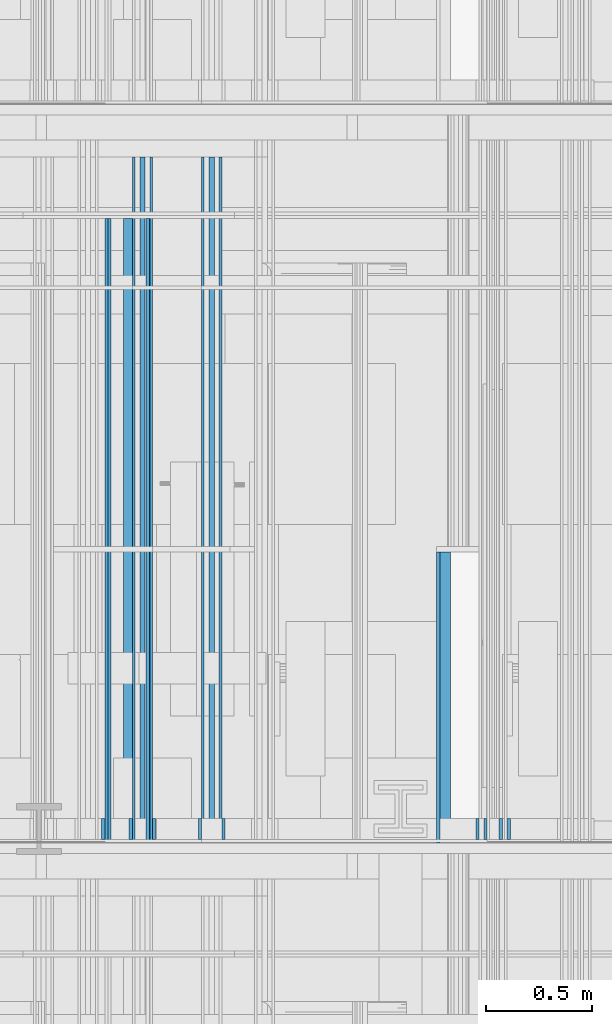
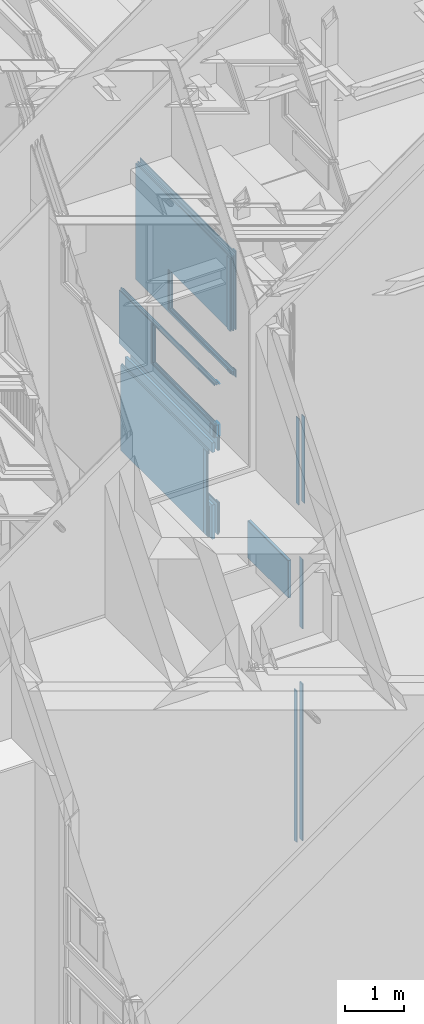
# One storey, part 109 of 583: 24 building element parts, 3 openings, 7 elements without a shape of their own.
"""IFC2X3 building model written with IfcOpenShell, lengths in metres."""

import ifcopenshell
import ifcopenshell.guid

model = None  # the IFC model being written
_history = None  # IfcOwnerHistory: only IFC2X3 demands one
_inside = {}  # id of a spatial element -> (the spatial element, [elements in it])
_under = {}  # id of a project, library or spatial element -> (it, [spatial elements below it])
_declared = {}  # id of a project -> (the project, [libraries it declares])
_typed = {}  # id of a type object -> (the type object, [elements of that type])
_made_of = {}  # id of a material, layer set ... -> (it, [elements and type objects made of it])


def new_model(schema):
    """Start an empty IFC model of exactly this schema.

    Asked for "IFC4X3", IfcOpenShell would pick the latest addendum, in which some entities
    have other attributes; the version numbers below select the first issue.
    IFC2X3 requires an IfcOwnerHistory on every rooted entity: one is made here for all.
    """
    global model, _history
    if schema == "IFC4X3":
        model = ifcopenshell.file(schema_version=(4, 3, 0, 0))
    else:
        model = ifcopenshell.file(schema=schema)
    _inside.clear()
    _under.clear()
    _declared.clear()
    _typed.clear()
    _made_of.clear()
    _history = None
    if model.schema == "IFC2X3":
        org = make("IfcOrganization", Name="unknown")
        user = make(
            "IfcPersonAndOrganization",
            ThePerson=make("IfcPerson", FamilyName="unknown"),
            TheOrganization=org,
        )
        app = make(
            "IfcApplication",
            ApplicationDeveloper=org,
            Version="unknown",
            ApplicationFullName="unknown",
            ApplicationIdentifier="unknown",
        )
        _history = make(
            "IfcOwnerHistory",
            OwningUser=user,
            OwningApplication=app,
            ChangeAction="ADDED",
            CreationDate=0,
        )
    return model


def make(cls, **values):
    """One entity of the class cls with the attributes given. An attribute that is None is left unset."""
    return model.create_entity(
        cls, **{name: value for name, value in values.items() if value is not None}
    )


def entity(cls, *values):
    """Any entity or typed value of the class cls, its attributes in the order of the schema. None: left unset."""
    e = model.create_entity(cls)
    for i, value in enumerate(values):
        if value is not None:
            e[i] = value
    return e


def rooted(cls, **values):
    """An entity with a GlobalId (a new one), such as an element, a storey or a relation."""
    return make(cls, GlobalId=ifcopenshell.guid.new(), OwnerHistory=_history, **values)


def si_unit(unit_type, name, prefix=None):
    """IfcSIUnit, for example si_unit("LENGTHUNIT", "METRE", prefix="MILLI")."""
    return make("IfcSIUnit", UnitType=unit_type, Prefix=prefix, Name=name)


def converted_unit(unit_type, name, factor, base, dimensions=None, offset=None):
    """IfcConversionBasedUnit, such as the inch: factor (a typed value) times the base unit."""
    return make(
        "IfcConversionBasedUnit"
        if offset is None
        else "IfcConversionBasedUnitWithOffset",
        ConversionOffset=offset,
        Dimensions=None
        if dimensions is None
        else entity("IfcDimensionalExponents", *dimensions),
        UnitType=unit_type,
        Name=name,
        ConversionFactor=make(
            "IfcMeasureWithUnit", ValueComponent=factor, UnitComponent=base
        ),
    )


def derived_unit(unit_type, elements):
    """IfcDerivedUnit: a product of units, each with its exponent."""
    return make(
        "IfcDerivedUnit",
        Elements=[
            make("IfcDerivedUnitElement", Unit=unit, Exponent=power)
            for unit, power in elements
        ],
        UnitType=unit_type,
    )


def money_unit(currency):
    """IfcMonetaryUnit."""
    return make("IfcMonetaryUnit", Currency=currency)


def assignment(units):
    """IfcUnitAssignment: the units of a project."""
    return None if units is None else make("IfcUnitAssignment", Units=units)


def point(xyz):
    """IfcCartesianPoint."""
    return None if xyz is None else make("IfcCartesianPoint", Coordinates=xyz)


def direction(xyz):
    """IfcDirection."""
    return None if xyz is None else make("IfcDirection", DirectionRatios=xyz)


def frame(location, z_axis=None, x_axis=None):
    """IfcAxis2Placement3D, a coordinate frame: its origin and axes. An axis left out is left unset."""
    return make(
        "IfcAxis2Placement3D",
        Location=point(location),
        Axis=direction(z_axis),
        RefDirection=direction(x_axis),
    )


def frame_2d(location, x_axis=None):
    """IfcAxis2Placement2D, a coordinate frame in the plane: its origin and x axis."""
    return make(
        "IfcAxis2Placement2D", Location=point(location), RefDirection=direction(x_axis)
    )


def origin_with_axes():
    """The frame at (0, 0, 0) with the z axis (0, 0, 1) and the x axis (1, 0, 0) written out."""
    return frame((0.0, 0.0, 0.0), z_axis=(0.0, 0.0, 1.0), x_axis=(1.0, 0.0, 0.0))


def place(relative_to, where):
    """IfcLocalPlacement: puts the frame where relative to a parent placement (None: the world)."""
    return make(
        "IfcLocalPlacement", PlacementRelTo=relative_to, RelativePlacement=where
    )


def context(
    kind, dimensions, precision=None, world=None, true_north=None, identifier=None
):
    """IfcGeometricRepresentationContext, for example the 3D "Model" context."""
    return make(
        "IfcGeometricRepresentationContext",
        ContextIdentifier=identifier,
        ContextType=kind,
        CoordinateSpaceDimension=dimensions,
        Precision=precision,
        WorldCoordinateSystem=world,
        TrueNorth=true_north,
    )


def subcontext(parent, identifier, kind, view, scale=None):
    """IfcGeometricRepresentationSubContext, for example "Body" below "Model"."""
    return make(
        "IfcGeometricRepresentationSubContext",
        ContextIdentifier=identifier,
        ContextType=kind,
        ParentContext=parent,
        TargetScale=scale,
        TargetView=view,
    )


def project(units=None, contexts=None):
    """IfcProject with its units and contexts."""
    return rooted(
        "IfcProject",
        Name="project",
        RepresentationContexts=contexts,
        UnitsInContext=assignment(units),
    )


def spatial(cls, under=None, at=None, **own):
    """A site, building, storey or space (cls), placed at a placement, below another one or the project."""
    s = rooted(cls, ObjectPlacement=at, **own)
    if under is not None:
        _under.setdefault(under.id(), (under, []))[1].append(s)
    return s


def polyline(points):
    """IfcPolyline through the points."""
    return make("IfcPolyline", Points=[point(p) for p in points])


def profile(cls, at=None, kind="AREA", **sizes):
    """A parametric profile (cls). Its sizes go by their IFC names, for example OverallWidth=200.0."""
    return make(cls, ProfileType=kind, Position=at, **sizes)


def rectangle(**sizes):
    """IfcRectangleProfileDef."""
    return profile("IfcRectangleProfileDef", **sizes)


def outline(outer, holes=None, kind="AREA"):
    """IfcArbitraryClosedProfileDef: a profile drawn as a closed curve; with holes, ...WithVoids."""
    if holes is None:
        return make("IfcArbitraryClosedProfileDef", ProfileType=kind, OuterCurve=outer)
    return make(
        "IfcArbitraryProfileDefWithVoids",
        ProfileType=kind,
        OuterCurve=outer,
        InnerCurves=holes,
    )


def extrude(swept, where, along, depth):
    """IfcExtrudedAreaSolid: the profile swept, set in the frame where, extruded along a direction by depth."""
    return make(
        "IfcExtrudedAreaSolid",
        SweptArea=swept,
        Position=where,
        ExtrudedDirection=direction(along),
        Depth=depth,
    )


def shape(context_of_items, identifier, shape_type, items):
    """IfcShapeRepresentation: the items that make up one representation, for example the "Body"."""
    return make(
        "IfcShapeRepresentation",
        ContextOfItems=context_of_items,
        RepresentationIdentifier=identifier,
        RepresentationType=shape_type,
        Items=items,
    )


def material(Name=None, Category=None):
    """IfcMaterial."""
    return make("IfcMaterial", Name=Name, Category=Category)


def made_of(thing, what):
    """Note that an element or type object is made of a material, layer set ...; save() writes the relation."""
    if what is not None:
        _made_of.setdefault(what.id(), (what, []))[1].append(thing)
    return thing


def type_object(cls, material=None, **own):
    """A type object (cls), such as IfcWallType, which elements share."""
    return made_of(rooted(cls, **own), material)


def element(
    cls,
    number,
    at=None,
    inside=None,
    cuts=None,
    type_object=None,
    material=None,
    context=None,
    identifier="Body",
    shape_type=None,
    held_by="IfcProductDefinitionShape",
    body=None,
    shapes=None,
    **own,
):
    """One element of the class cls, such as IfcWall. Its Tag is "e" and its number.

    at: its placement. inside: the storey or other place that contains it. cuts: it is an
    opening in that element (IfcRelVoidsElement). A single representation is given by context,
    identifier, shape_type and body (its items); several are given by shapes. held_by: the class
    of the entity that holds the representations. save() writes the other relations.
    """
    e = rooted(cls, Tag="e%d" % number, ObjectPlacement=at, **own)
    if body is not None:
        shapes = [shape(context, identifier, shape_type, body)]
    if shapes is not None:
        e.Representation = make(held_by, Representations=shapes)
    if inside is not None:
        _inside.setdefault(inside.id(), (inside, []))[1].append(e)
    if cuts is not None:
        rooted(
            "IfcRelVoidsElement", RelatingBuildingElement=cuts, RelatedOpeningElement=e
        )
    if type_object is not None:
        _typed.setdefault(type_object.id(), (type_object, []))[1].append(e)
    return made_of(e, material)


def aggregate(whole, parts):
    """IfcRelAggregates: a whole, such as a stair, and the parts it consists of."""
    return rooted("IfcRelAggregates", RelatingObject=whole, RelatedObjects=parts)


def save(model, path):
    """Write the relations noted so far, then the file.

    IfcRelAggregates (storeys below a building ...), IfcRelContainedInSpatialStructure (elements
    in a storey), IfcRelDefinesByType, IfcRelAssociatesMaterial and IfcRelDeclares: one each for
    every whole, place, type object, material and project.
    """
    for whole, parts in _under.values():
        aggregate(whole, parts)
    for where, things in _inside.values():
        rooted(
            "IfcRelContainedInSpatialStructure",
            RelatedElements=things,
            RelatingStructure=where,
        )
    for kind, things in _typed.values():
        rooted("IfcRelDefinesByType", RelatedObjects=things, RelatingType=kind)
    for what, things in _made_of.values():
        rooted("IfcRelAssociatesMaterial", RelatedObjects=things, RelatingMaterial=what)
    for by, libraries in _declared.values():
        rooted("IfcRelDeclares", RelatingContext=by, RelatedDefinitions=libraries)
    model.write(path)


model = new_model("IFC2X3")

# Units and contexts
model_context = context("Model", 3, precision=1e-05, world=origin_with_axes(), true_north=direction((0.0, 1.0)))
body_context = subcontext(model_context, "Body", "Model", "MODEL_VIEW", scale=1.0)
ifc_project = project(units=[si_unit("LENGTHUNIT", "METRE"), si_unit("AREAUNIT", "SQUARE_METRE"), si_unit("VOLUMEUNIT", "CUBIC_METRE"), si_unit("ABSORBEDDOSEUNIT", "GRAY"), si_unit("AMOUNTOFSUBSTANCEUNIT", "MOLE"), si_unit("DOSEEQUIVALENTUNIT", "SIEVERT"), si_unit("ELECTRICCAPACITANCEUNIT", "FARAD"), si_unit("ELECTRICCHARGEUNIT", "COULOMB"), si_unit("ELECTRICCONDUCTANCEUNIT", "SIEMENS"), si_unit("ELECTRICCURRENTUNIT", "AMPERE"), si_unit("ELECTRICRESISTANCEUNIT", "OHM"), si_unit("ELECTRICVOLTAGEUNIT", "VOLT"), si_unit("ENERGYUNIT", "JOULE"), si_unit("FORCEUNIT", "NEWTON"), si_unit("FREQUENCYUNIT", "HERTZ"), si_unit("ILLUMINANCEUNIT", "LUX"), si_unit("INDUCTANCEUNIT", "HENRY"), si_unit("LUMINOUSFLUXUNIT", "LUMEN"), si_unit("LUMINOUSINTENSITYUNIT", "CANDELA"), si_unit("MAGNETICFLUXDENSITYUNIT", "TESLA"), si_unit("MAGNETICFLUXUNIT", "WEBER"), si_unit("MASSUNIT", "GRAM"), converted_unit("PLANEANGLEUNIT", "degree", entity("IfcReal", 0.0174532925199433), si_unit("PLANEANGLEUNIT", "RADIAN"), dimensions=[0, 0, 0, 0, 0, 0, 0]), si_unit("POWERUNIT", "WATT"), si_unit("PRESSUREUNIT", "PASCAL"), si_unit("RADIOACTIVITYUNIT", "BECQUEREL"), si_unit("SOLIDANGLEUNIT", "STERADIAN"), si_unit("THERMODYNAMICTEMPERATUREUNIT", "KELVIN"), si_unit("TIMEUNIT", "SECOND"), derived_unit("ACCELERATIONUNIT", [(si_unit("LENGTHUNIT", "METRE"), 1), (si_unit("TIMEUNIT", "SECOND"), -2)]), derived_unit("ANGULARVELOCITYUNIT", [(converted_unit("PLANEANGLEUNIT", "degree", entity("IfcReal", 0.0174532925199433), si_unit("PLANEANGLEUNIT", "RADIAN"), dimensions=[0, 0, 0, 0, 0, 0, 0]), 1), (si_unit("TIMEUNIT", "SECOND"), -1)]), derived_unit("CURVATUREUNIT", [(converted_unit("PLANEANGLEUNIT", "degree", entity("IfcReal", 0.0174532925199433), si_unit("PLANEANGLEUNIT", "RADIAN"), dimensions=[0, 0, 0, 0, 0, 0, 0]), 1), (si_unit("LENGTHUNIT", "METRE"), -1)]), derived_unit("DYNAMICVISCOSITYUNIT", [(si_unit("PRESSUREUNIT", "PASCAL"), 1), (si_unit("TIMEUNIT", "SECOND"), 1)]), derived_unit("HEATFLUXDENSITYUNIT", [(si_unit("POWERUNIT", "WATT"), 1), (si_unit("LENGTHUNIT", "METRE"), -2)]), derived_unit("HEATINGVALUEUNIT", [(si_unit("ENERGYUNIT", "JOULE"), 1), (si_unit("MASSUNIT", "GRAM"), -1)]), derived_unit("INTEGERCOUNTRATEUNIT", [(si_unit("TIMEUNIT", "SECOND"), -1)]), derived_unit("IONCONCENTRATIONUNIT", [(si_unit("MASSUNIT", "GRAM"), 1), (si_unit("VOLUMEUNIT", "CUBIC_METRE"), -1)]), derived_unit("ISOTHERMALMOISTURECAPACITYUNIT", [(si_unit("VOLUMEUNIT", "CUBIC_METRE"), 1), (si_unit("MASSUNIT", "GRAM"), -1)]), derived_unit("KINEMATICVISCOSITYUNIT", [(si_unit("AREAUNIT", "SQUARE_METRE"), 1), (si_unit("TIMEUNIT", "SECOND"), -1)]), derived_unit("LINEARFORCEUNIT", [(si_unit("FORCEUNIT", "NEWTON"), 1), (si_unit("LENGTHUNIT", "METRE"), -1)]), derived_unit("LINEARMOMENTUNIT", [(si_unit("FORCEUNIT", "NEWTON"), 1), (si_unit("LENGTHUNIT", "METRE"), -1)]), derived_unit("LINEARSTIFFNESSUNIT", [(si_unit("FORCEUNIT", "NEWTON"), 1), (si_unit("LENGTHUNIT", "METRE"), -1)]), derived_unit("LINEARVELOCITYUNIT", [(si_unit("LENGTHUNIT", "METRE"), 1), (si_unit("TIMEUNIT", "SECOND"), -1)]), derived_unit("LUMINOUSINTENSITYDISTRIBUTIONUNIT", [(si_unit("LUMINOUSINTENSITYUNIT", "CANDELA"), 1), (si_unit("LUMINOUSFLUXUNIT", "LUMEN"), -1)]), derived_unit("MASSDENSITYUNIT", [(si_unit("MASSUNIT", "GRAM"), 1), (si_unit("VOLUMEUNIT", "CUBIC_METRE"), -1)]), derived_unit("MASSFLOWRATEUNIT", [(si_unit("MASSUNIT", "GRAM"), 1), (si_unit("TIMEUNIT", "SECOND"), -1)]), derived_unit("MASSPERLENGTHUNIT", [(si_unit("MASSUNIT", "GRAM"), 1), (si_unit("LENGTHUNIT", "METRE"), -1)]), derived_unit("MODULUSOFELASTICITYUNIT", [(si_unit("FORCEUNIT", "NEWTON"), 1), (si_unit("AREAUNIT", "SQUARE_METRE"), -1)]), derived_unit("MODULUSOFLINEARSUBGRADEREACTIONUNIT", [(si_unit("FORCEUNIT", "NEWTON"), 1), (si_unit("LENGTHUNIT", "METRE"), -2)]), derived_unit("MODULUSOFROTATIONALSUBGRADEREACTIONUNIT", [(si_unit("FORCEUNIT", "NEWTON"), 1), (si_unit("LENGTHUNIT", "METRE"), 1)]), derived_unit("MODULUSOFSUBGRADEREACTIONUNIT", [(si_unit("FORCEUNIT", "NEWTON"), 1), (si_unit("VOLUMEUNIT", "CUBIC_METRE"), -1)]), derived_unit("MOISTUREDIFFUSIVITYUNIT", [(si_unit("VOLUMEUNIT", "CUBIC_METRE"), 1), (si_unit("TIMEUNIT", "SECOND"), -1)]), derived_unit("MOLECULARWEIGHTUNIT", [(si_unit("MASSUNIT", "GRAM"), 1), (si_unit("AMOUNTOFSUBSTANCEUNIT", "MOLE"), -1)]), derived_unit("PLANARFORCEUNIT", [(si_unit("FORCEUNIT", "NEWTON"), 1), (si_unit("LENGTHUNIT", "METRE"), -2)]), derived_unit("ROTATIONALFREQUENCYUNIT", [(si_unit("TIMEUNIT", "SECOND"), -1)]), derived_unit("ROTATIONALMASSUNIT", [(si_unit("MASSUNIT", "GRAM"), 1), (si_unit("LENGTHUNIT", "METRE"), 2)]), derived_unit("ROTATIONALSTIFFNESSUNIT", [(si_unit("FORCEUNIT", "NEWTON"), 1), (si_unit("LENGTHUNIT", "METRE"), 1), (converted_unit("PLANEANGLEUNIT", "degree", entity("IfcReal", 0.0174532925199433), si_unit("PLANEANGLEUNIT", "RADIAN"), dimensions=[0, 0, 0, 0, 0, 0, 0]), -1)]), derived_unit("SECTIONAREAINTEGRALUNIT", [(si_unit("LENGTHUNIT", "METRE"), 5)]), derived_unit("SECTIONMODULUSUNIT", [(si_unit("LENGTHUNIT", "METRE"), 3)]), derived_unit("SHEARMODULUSUNIT", [(si_unit("FORCEUNIT", "NEWTON"), 1), (si_unit("AREAUNIT", "SQUARE_METRE"), -1)]), derived_unit("SOUNDPOWERUNIT", [(si_unit("ENERGYUNIT", "JOULE"), 1), (si_unit("TIMEUNIT", "SECOND"), -1)]), derived_unit("SPECIFICHEATCAPACITYUNIT", [(si_unit("FORCEUNIT", "NEWTON"), 1), (si_unit("MASSUNIT", "GRAM"), -1), (si_unit("THERMODYNAMICTEMPERATUREUNIT", "KELVIN"), -1)]), derived_unit("TEMPERATUREGRADIENTUNIT", [(si_unit("THERMODYNAMICTEMPERATUREUNIT", "KELVIN"), 1), (si_unit("LENGTHUNIT", "METRE"), -1)]), derived_unit("THERMALADMITTANCEUNIT", [(si_unit("POWERUNIT", "WATT"), 1), (si_unit("AREAUNIT", "SQUARE_METRE"), -1), (si_unit("THERMODYNAMICTEMPERATUREUNIT", "KELVIN"), -1)]), derived_unit("THERMALCONDUCTANCEUNIT", [(si_unit("POWERUNIT", "WATT"), 1), (si_unit("LENGTHUNIT", "METRE"), -1), (si_unit("THERMODYNAMICTEMPERATUREUNIT", "KELVIN"), -1)]), derived_unit("THERMALEXPANSIONCOEFFICIENTUNIT", [(si_unit("THERMODYNAMICTEMPERATUREUNIT", "KELVIN"), -1)]), derived_unit("THERMALRESISTANCEUNIT", [(si_unit("AREAUNIT", "SQUARE_METRE"), 1), (si_unit("POWERUNIT", "WATT"), -1)]), derived_unit("THERMALTRANSMITTANCEUNIT", [(si_unit("POWERUNIT", "WATT"), 1), (si_unit("AREAUNIT", "SQUARE_METRE"), -1), (si_unit("THERMODYNAMICTEMPERATUREUNIT", "KELVIN"), -1)]), derived_unit("TORQUEUNIT", [(si_unit("FORCEUNIT", "NEWTON"), 1), (si_unit("LENGTHUNIT", "METRE"), 1)]), derived_unit("VAPORPERMEABILITYUNIT", [(si_unit("MASSUNIT", "GRAM"), 1), (si_unit("TIMEUNIT", "SECOND"), -1)]), derived_unit("VOLUMETRICFLOWRATEUNIT", [(si_unit("VOLUMEUNIT", "CUBIC_METRE"), 1), (si_unit("TIMEUNIT", "SECOND"), -1)]), derived_unit("WARPINGCONSTANTUNIT", [(si_unit("LENGTHUNIT", "METRE"), 6)]), derived_unit("WARPINGMOMENTUNIT", [(si_unit("FORCEUNIT", "NEWTON"), 1), (si_unit("LENGTHUNIT", "METRE"), 2)]), money_unit("GBP")], contexts=[model_context])

# Site, building, storey
site_placement = place(None, origin_with_axes())
site = spatial("IfcSite", under=ifc_project, at=site_placement, Name="Site", CompositionType="ELEMENT")
building_placement = place(site_placement, origin_with_axes())
building = spatial("IfcBuilding", under=site, at=building_placement, Name="Building01", CompositionType="ELEMENT")
storey_placement = place(building_placement, frame((0.0, 0.0, 20.78), z_axis=(0.0, 0.0, 1.0), x_axis=(1.0, 0.0, 0.0)))
storey = spatial("IfcBuildingStorey", under=building, at=storey_placement, Name="RL", CompositionType="ELEMENT", Elevation=20.78)

# Wall, opening, building element parts
wall_type_1 = type_object("IfcWallType", Name="SHE_A-Walls_Type05a_Partition_95mm_tall", PredefinedType="NOTDEFINED")
wall_1_placement = place(storey_placement, frame((10.355, 8.64, -10.326129), z_axis=(0.0, 1.0, 0.0), x_axis=(0.0, 0.0, 1.0)))
wall_1 = element("IfcWall", 1, at=wall_1_placement, inside=storey, type_object=wall_type_1, Name="5A", ObjectType="SHE_A-Walls_Type05a_Partition_95mm_tall")
opening_1_placement = place(wall_1_placement, frame((0.086065, -0.035, 0.0), z_axis=(0.0, 0.0, 1.0), x_axis=(1.0, 0.0, 0.0)))
element("IfcOpeningElement", 2, at=opening_1_placement, cuts=wall_1, Name="Opening", ObjectType="Opening", context=body_context, shape_type="SweptSolid", body=[
    extrude(rectangle(XDim=2.142, YDim=0.834, at=frame_2d((0.417, 1.071), x_axis=(0.0, -1.0))), frame((0.0, 4.622002, 0.0), z_axis=(0.0, -1.0, 0.0), x_axis=(1.0, 0.0, 0.0)), (0.0, 0.0, 1.0), 9.244005),
])
ifc_material_1 = material(Name="A_BSUK_Insulation")
placement_1 = place(wall_1_placement, origin_with_axes())
building_element_part_1 = element("IfcBuildingElementPart", 3, at=placement_1, material=ifc_material_1, Name="1", context=body_context, shape_type="SweptSolid", body=[
    extrude(rectangle(XDim=2.474714, YDim=0.025, at=frame_2d((1.237357, 0.0125), x_axis=(-1.0, 0.0))), origin_with_axes(), (0.0, 0.0, 1.0), 3.24),
])
ifc_material_2 = material(Name="A_BSUK_Walls_Timber")
building_element_part_2 = element("IfcBuildingElementPart", 4, at=placement_1, material=ifc_material_2, Name="2", context=body_context, shape_type="SweptSolid", body=[
    extrude(outline(polyline([(2.549714, 0.075), (-0.075, 0.075), (-0.06, 0.06), (2.534714, 0.06), (2.549714, 0.075)])), frame((0.0, 0.0, 0.015), z_axis=(0.0, 0.0, 1.0), x_axis=(1.0, 0.0, 0.0)), (0.0, 0.0, 1.0), 0.1),
])
building_element_part_3 = element("IfcBuildingElementPart", 5, at=placement_1, material=ifc_material_2, Name="3", context=body_context, shape_type="SweptSolid", body=[
    extrude(outline(polyline([(2.439714, -0.035), (0.035, -0.035), (0.05, -0.05), (2.424714, -0.05), (2.439714, -0.035)])), frame((0.0, 0.0, 0.015), z_axis=(0.0, 0.0, 1.0), x_axis=(1.0, 0.0, 0.0)), (0.0, 0.0, 1.0), 0.1),
])
ifc_material_3 = material(Name="A_BSUK_WallInternal_Finishes_Plasterboard")
building_element_part_4 = element("IfcBuildingElementPart", 6, at=placement_1, material=ifc_material_3, Name="4", context=body_context, shape_type="SweptSolid", body=[
    extrude(outline(polyline([(2.534714, 0.06), (-0.06, 0.06), (-0.048, 0.048), (2.522714, 0.048), (2.534714, 0.06)])), origin_with_axes(), (0.0, 0.0, 1.0), 3.24),
])
building_element_part_5 = element("IfcBuildingElementPart", 7, at=placement_1, material=ifc_material_3, Name="5", context=body_context, shape_type="SweptSolid", body=[
    extrude(outline(polyline([(2.451714, -0.023), (0.023, -0.023), (0.035, -0.035), (2.439714, -0.035), (2.451714, -0.023)])), origin_with_axes(), (0.0, 0.0, 1.0), 3.24),
])
aggregate(wall_1, [building_element_part_1, building_element_part_2, building_element_part_3, building_element_part_4, building_element_part_5])

wall_type_2 = type_object("IfcWallType", Name="SHE_A-Walls_Type01c_Partywall_225mm_twin_tall", PredefinedType="NOTDEFINED")
wall_2_placement = place(storey_placement, frame((9.949704, 8.64, -11.583), z_axis=(0.0, 1.0, 0.0), x_axis=(0.0, 0.0, -1.0)))
wall_2 = element("IfcWall", 8, at=wall_2_placement, inside=storey, type_object=wall_type_2, Name="1C", ObjectType="SHE_A-Walls_Type01c_Partywall_225mm_twin_tall")
opening_2_placement = place(wall_2_placement, frame((0.200331, -0.138, 0.0), z_axis=(0.0, 0.0, 1.0), x_axis=(1.0, 0.0, 0.0)))
element("IfcOpeningElement", 9, at=opening_2_placement, cuts=wall_2, Name="Opening", ObjectType="Opening", context=body_context, shape_type="SweptSolid", body=[
    extrude(rectangle(XDim=2.142, YDim=1.084, at=frame_2d((0.542, 1.071), x_axis=(0.0, -1.0))), frame((0.0, 0.207, 0.0), z_axis=(0.0, -1.0, 0.0), x_axis=(1.0, 0.0, 0.0)), (0.0, 0.0, 1.0), 0.414),
])
placement_2 = place(wall_2_placement, origin_with_axes())
building_element_part_6 = element("IfcBuildingElementPart", 10, at=placement_2, material=ifc_material_1, Name="1", context=body_context, shape_type="SweptSolid", body=[
    extrude(rectangle(XDim=1.995331, YDim=0.05, at=frame_2d((0.997666, -0.025), x_axis=(-1.0, 0.0))), origin_with_axes(), (0.0, 0.0, 1.0), 2.95),
])
building_element_part_7 = element("IfcBuildingElementPart", 11, at=placement_2, material=ifc_material_2, Name="2", context=body_context, shape_type="SweptSolid", body=[
    extrude(outline(polyline([(1.892331, 0.102), (0.152, 0.102), (0.137, 0.087), (1.892331, 0.087), (1.892331, 0.102)])), frame((0.0, 0.0, 0.015), z_axis=(0.0, 0.0, 1.0), x_axis=(1.0, 0.0, 0.0)), (0.0, 0.0, 1.0), 0.1),
])
building_element_part_8 = element("IfcBuildingElementPart", 12, at=placement_2, material=ifc_material_3, Name="3", context=body_context, shape_type="SweptSolid", body=[
    extrude(outline(polyline([(1.907331, 0.087), (0.137, 0.087), (0.122, 0.072), (1.907331, 0.072), (1.907331, 0.087)])), origin_with_axes(), (0.0, 0.0, 1.0), 2.95),
])
building_element_part_9 = element("IfcBuildingElementPart", 13, at=placement_2, material=ifc_material_3, Name="4", context=body_context, shape_type="SweptSolid", body=[
    extrude(outline(polyline([(1.922331, 0.072), (0.122, 0.072), (0.107, 0.057), (1.922331, 0.057), (1.922331, 0.072)])), origin_with_axes(), (0.0, 0.0, 1.0), 2.95),
])
building_element_part_10 = element("IfcBuildingElementPart", 14, at=placement_2, material=ifc_material_3, Name="5", context=body_context, shape_type="SweptSolid", body=[
    extrude(rectangle(XDim=2.010331, YDim=0.015, at=frame_2d((0.932166, -0.1155), x_axis=(-1.0, 0.0))), origin_with_axes(), (0.0, 0.0, 1.0), 2.95),
])
building_element_part_11 = element("IfcBuildingElementPart", 15, at=placement_2, material=ifc_material_3, Name="6", context=body_context, shape_type="SweptSolid", body=[
    extrude(rectangle(XDim=2.010331, YDim=0.015, at=frame_2d((0.917166, -0.1305), x_axis=(-1.0, 0.0))), origin_with_axes(), (0.0, 0.0, 1.0), 2.95),
])
building_element_part_12 = element("IfcBuildingElementPart", 16, at=placement_2, material=ifc_material_2, Name="7", context=body_context, shape_type="SweptSolid", body=[
    extrude(outline(polyline([(1.907331, -0.138), (-0.088, -0.138), (-0.103, -0.153), (1.907331, -0.153), (1.907331, -0.138)])), frame((0.0, 0.0, 0.015), z_axis=(0.0, 0.0, 1.0), x_axis=(1.0, 0.0, 0.0)), (0.0, 0.0, 1.0), 0.1),
])
aggregate(wall_2, [building_element_part_6, building_element_part_7, building_element_part_8, building_element_part_9, building_element_part_10, building_element_part_11, building_element_part_12])

# Wall, building element parts
wall_3_placement = place(storey_placement, frame((11.703124, 8.64, -11.69), z_axis=(0.0, 1.0, 0.0), x_axis=(0.0, 0.0, -1.0)))
wall_3 = element("IfcWall", 17, at=wall_3_placement, inside=storey, type_object=wall_type_1, Name="5A", ObjectType="SHE_A-Walls_Type05a_Partition_95mm_tall")
placement_3 = place(wall_3_placement, origin_with_axes())
building_element_part_13 = element("IfcBuildingElementPart", 18, at=placement_3, material=ifc_material_2, Name="2", context=body_context, shape_type="SweptSolid", body=[
    extrude(rectangle(XDim=1.785331, YDim=0.015, at=frame_2d((0.892666, 0.0425), x_axis=(-1.0, 0.0))), frame((0.0, 0.0, 0.015), z_axis=(0.0, 0.0, 1.0), x_axis=(1.0, 0.0, 0.0)), (0.0, 0.0, 1.0), 0.1),
])
building_element_part_14 = element("IfcBuildingElementPart", 19, at=placement_3, material=ifc_material_2, Name="3", context=body_context, shape_type="SweptSolid", body=[
    extrude(rectangle(XDim=1.785331, YDim=0.015, at=frame_2d((0.892666, -0.0675), x_axis=(-1.0, 0.0))), frame((0.0, 0.0, 0.015), z_axis=(0.0, 0.0, 1.0), x_axis=(1.0, 0.0, 0.0)), (0.0, 0.0, 1.0), 0.1),
])
aggregate(wall_3, [building_element_part_13, building_element_part_14])

# Wall, opening, building element parts
wall_4_placement = place(storey_placement, frame((10.052704, 8.64, -10.351129), z_axis=(0.0, 1.0, 0.0), x_axis=(0.0, 0.0, -1.0)))
wall_4 = element("IfcWall", 20, at=wall_4_placement, inside=storey, type_object=wall_type_1, Name="5A", ObjectType="SHE_A-Walls_Type05a_Partition_95mm_tall")
opening_3_placement = place(wall_4_placement, frame((0.062, -0.035, 0.0), z_axis=(0.0, 0.0, 1.0), x_axis=(1.0, 0.0, 0.0)))
element("IfcOpeningElement", 21, at=opening_3_placement, cuts=wall_4, Name="Opening", ObjectType="Opening", context=body_context, shape_type="SweptSolid", body=[
    extrude(rectangle(XDim=2.142, YDim=0.834, at=frame_2d((0.417, 1.071), x_axis=(0.0, -1.0))), frame((0.0, 3.762218, 0.0), z_axis=(0.0, -1.0, 0.0), x_axis=(1.0, 0.0, 0.0)), (0.0, 0.0, 1.0), 7.524435),
])
placement_4 = place(wall_4_placement, origin_with_axes())
building_element_part_15 = element("IfcBuildingElementPart", 22, at=placement_4, material=ifc_material_1, Name="1", context=body_context, shape_type="SweptSolid", body=[
    extrude(rectangle(XDim=1.143871, YDim=0.025, at=frame_2d((0.571935, 0.0125), x_axis=(-1.0, 0.0))), origin_with_axes(), (0.0, 0.0, 1.0), 3.24),
])
building_element_part_16 = element("IfcBuildingElementPart", 23, at=placement_4, material=ifc_material_2, Name="2", context=body_context, shape_type="SweptSolid", body=[
    extrude(outline(polyline([(1.128871, 0.075), (0.25, 0.075), (0.235, 0.06), (1.128871, 0.06), (1.128871, 0.075)])), frame((0.0, 0.0, 0.015), z_axis=(0.0, 0.0, 1.0), x_axis=(1.0, 0.0, 0.0)), (0.0, 0.0, 1.0), 0.1),
])
building_element_part_17 = element("IfcBuildingElementPart", 24, at=placement_4, material=ifc_material_2, Name="3", context=body_context, shape_type="SweptSolid", body=[
    extrude(rectangle(XDim=0.015, YDim=1.093871, at=frame_2d((0.596935, -0.0425), x_axis=(0.0, -1.0))), frame((0.0, 0.0, 0.015), z_axis=(0.0, 0.0, 1.0), x_axis=(1.0, 0.0, 0.0)), (0.0, 0.0, 1.0), 0.1),
])
building_element_part_18 = element("IfcBuildingElementPart", 25, at=placement_4, material=ifc_material_3, Name="4", context=body_context, shape_type="SweptSolid", body=[
    extrude(rectangle(XDim=1.108871, YDim=0.012, at=frame_2d((0.589435, 0.054), x_axis=(-1.0, 0.0))), origin_with_axes(), (0.0, 0.0, 1.0), 3.24),
])
building_element_part_19 = element("IfcBuildingElementPart", 26, at=placement_4, material=ifc_material_3, Name="5", context=body_context, shape_type="SweptSolid", body=[
    extrude(rectangle(XDim=1.108871, YDim=0.012, at=frame_2d((0.589435, -0.029), x_axis=(-1.0, 0.0))), origin_with_axes(), (0.0, 0.0, 1.0), 3.24),
])
aggregate(wall_4, [building_element_part_15, building_element_part_16, building_element_part_17, building_element_part_18, building_element_part_19])

# Wall, building element parts
wall_5_placement = place(storey_placement, frame((11.69067, 8.64, -20.462), z_axis=(0.0, 1.0, 0.0), x_axis=(0.0, 0.0, 1.0)))
wall_5 = element("IfcWall", 27, at=wall_5_placement, inside=storey, type_object=wall_type_1, Name="5A", ObjectType="SHE_A-Walls_Type05a_Partition_95mm_tall")
placement_5 = place(wall_5_placement, origin_with_axes())
building_element_part_20 = element("IfcBuildingElementPart", 28, at=placement_5, material=ifc_material_2, Name="2", context=body_context, shape_type="SweptSolid", body=[
    extrude(outline(polyline([(3.156669, -0.06), (0.015, -0.06), (0.015, -0.075), (3.141669, -0.075), (3.156669, -0.06)])), frame((0.0, 0.0, 0.015), z_axis=(0.0, 0.0, 1.0), x_axis=(1.0, 0.0, 0.0)), (0.0, 0.0, 1.0), 0.1),
])
building_element_part_21 = element("IfcBuildingElementPart", 29, at=placement_5, material=ifc_material_2, Name="3", context=body_context, shape_type="SweptSolid", body=[
    extrude(outline(polyline([(3.266669, 0.05), (0.015, 0.05), (0.015, 0.035), (3.251669, 0.035), (3.266669, 0.05)])), frame((0.0, 0.0, 0.015), z_axis=(0.0, 0.0, 1.0), x_axis=(1.0, 0.0, 0.0)), (0.0, 0.0, 1.0), 0.1),
])
aggregate(wall_5, [building_element_part_20, building_element_part_21])

# Wall, building element part
wall_6_placement = place(storey_placement, frame((11.66567, 8.64, -16.110331), z_axis=(0.0, 1.0, 0.0), x_axis=(0.0, 0.0, 1.0)))
wall_6 = element("IfcWall", 30, at=wall_6_placement, inside=storey, type_object=wall_type_1, Name="5A", ObjectType="SHE_A-Walls_Type05a_Partition_95mm_tall")
building_element_part_22_placement = place(wall_6_placement, origin_with_axes())
building_element_part_22 = element("IfcBuildingElementPart", 31, at=building_element_part_22_placement, material=ifc_material_2, Name="2", context=body_context, shape_type="SweptSolid", body=[
    extrude(outline(polyline([(1.485, 0.075), (0.05, 0.075), (0.05, 0.06), (1.5, 0.06), (1.485, 0.075)])), frame((0.0, 0.0, 0.015), z_axis=(0.0, 0.0, 1.0), x_axis=(1.0, 0.0, 0.0)), (0.0, 0.0, 1.0), 0.1),
])
aggregate(wall_6, [building_element_part_22])

# Wall, building element parts
wall_type_3 = type_object("IfcWallType", Name="SHE_A-Walls_Type05c_PreWallShell_65mm", PredefinedType="NOTDEFINED")
wall_7_placement = place(storey_placement, frame((11.495672, 8.64, -15.315331), z_axis=(0.0, 1.0, 0.0), x_axis=(0.0, 0.0, 1.0)))
wall_7 = element("IfcWall", 32, at=wall_7_placement, inside=storey, type_object=wall_type_3, Name="5C", ObjectType="SHE_A-Walls_Type05c_PreWallShell_65mm")
ifc_material_4 = material(Name="A_BSUK_OpeningsClearance")
placement_6 = place(wall_7_placement, origin_with_axes())
building_element_part_23 = element("IfcBuildingElementPart", 33, at=placement_6, material=ifc_material_4, Name="1", context=body_context, shape_type="SweptSolid", body=[
    extrude(rectangle(XDim=0.775, YDim=0.05, at=frame_2d((0.3875, -0.025), x_axis=(-1.0, 0.0))), origin_with_axes(), (0.0, 0.0, 1.0), 1.375),
])
building_element_part_24 = element("IfcBuildingElementPart", 34, at=placement_6, material=ifc_material_2, Name="2", context=body_context, shape_type="SweptSolid", body=[
    extrude(rectangle(XDim=0.76, YDim=0.015, at=frame_2d((0.395, -0.0575), x_axis=(-1.0, 0.0))), origin_with_axes(), (0.0, 0.0, 1.0), 1.375),
])
aggregate(wall_7, [building_element_part_23, building_element_part_24])

save(model, "model.ifc")
